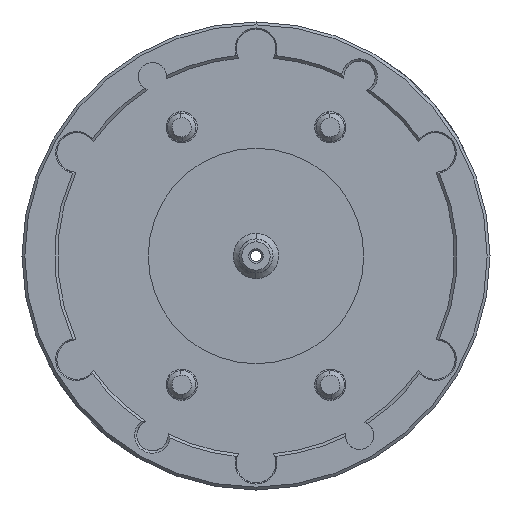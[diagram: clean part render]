
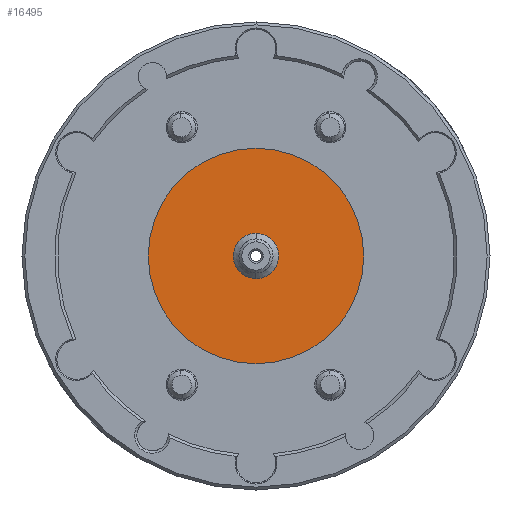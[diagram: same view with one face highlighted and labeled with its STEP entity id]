
A CAD part, left-side view. The second image highlights one B-rep face of the part: STEP entity #16495.
In plain terms, the highlighted planar face has unit normal (-1, 0, 0).
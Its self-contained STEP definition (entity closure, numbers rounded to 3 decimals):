
#727 = CIRCLE ( 'NONE', #31641, 38. ) ;
#1557 = AXIS2_PLACEMENT_3D ( 'NONE', #29763, #34988, #27364 ) ;
#1845 = CARTESIAN_POINT ( 'NONE',  ( -100., 0.021, -8. ) ) ;
#1862 = CARTESIAN_POINT ( 'NONE',  ( -100., 0., 0. ) ) ;
#2131 = ORIENTED_EDGE ( 'NONE', *, *, #16975, .F. ) ;
#2211 = EDGE_LOOP ( 'NONE', ( #14576, #25017 ) ) ;
#3532 = FACE_BOUND ( 'NONE', #2211, .T. ) ;
#3799 = FACE_OUTER_BOUND ( 'NONE', #29855, .T. ) ;
#3815 = EDGE_CURVE ( 'NONE', #28816, #37797, #34295, .T. ) ;
#5110 = CIRCLE ( 'NONE', #24553, 38. ) ;
#7235 = DIRECTION ( 'NONE',  ( 1., 0., 0. ) ) ;
#7802 = PLANE ( 'NONE',  #1557 ) ;
#12517 = AXIS2_PLACEMENT_3D ( 'NONE', #34813, #34100, #33868 ) ;
#14087 = DIRECTION ( 'NONE',  ( 0., 0., -1. ) ) ;
#14142 = DIRECTION ( 'NONE',  ( 1., 0., 0. ) ) ;
#14209 = CARTESIAN_POINT ( 'NONE',  ( -100., 0., 0. ) ) ;
#14576 = ORIENTED_EDGE ( 'NONE', *, *, #3815, .T. ) ;
#16060 = DIRECTION ( 'NONE',  ( 0., 0., -1. ) ) ;
#16495 = ADVANCED_FACE ( 'NONE', ( #3532, #3799 ), #7802, .F. ) ;
#16556 = AXIS2_PLACEMENT_3D ( 'NONE', #1862, #7235, #16060 ) ;
#16975 = EDGE_CURVE ( 'NONE', #29133, #36455, #727, .T. ) ;
#18780 = CARTESIAN_POINT ( 'NONE',  ( -100., 0., -38. ) ) ;
#21340 = DIRECTION ( 'NONE',  ( 1., 0., 0. ) ) ;
#23670 = EDGE_CURVE ( 'NONE', #37797, #28816, #39706, .T. ) ;
#24553 = AXIS2_PLACEMENT_3D ( 'NONE', #14209, #14142, #14087 ) ;
#25017 = ORIENTED_EDGE ( 'NONE', *, *, #23670, .T. ) ;
#27236 = CARTESIAN_POINT ( 'NONE',  ( -100., 0., 38. ) ) ;
#27364 = DIRECTION ( 'NONE',  ( 0., 0., -1. ) ) ;
#27536 = CARTESIAN_POINT ( 'NONE',  ( -100., -0.021, 8. ) ) ;
#28816 = VERTEX_POINT ( 'NONE', #1845 ) ;
#29059 = DIRECTION ( 'NONE',  ( 0., 0., -1. ) ) ;
#29133 = VERTEX_POINT ( 'NONE', #18780 ) ;
#29763 = CARTESIAN_POINT ( 'NONE',  ( -100., -38., 0. ) ) ;
#29855 = EDGE_LOOP ( 'NONE', ( #2131, #30263 ) ) ;
#30263 = ORIENTED_EDGE ( 'NONE', *, *, #36035, .F. ) ;
#31098 = CARTESIAN_POINT ( 'NONE',  ( -100., 0., 0. ) ) ;
#31641 = AXIS2_PLACEMENT_3D ( 'NONE', #31098, #21340, #29059 ) ;
#33868 = DIRECTION ( 'NONE',  ( 0., 0., -1. ) ) ;
#34100 = DIRECTION ( 'NONE',  ( 1., 0., 0. ) ) ;
#34295 = CIRCLE ( 'NONE', #16556, 8. ) ;
#34813 = CARTESIAN_POINT ( 'NONE',  ( -100., 0., 0. ) ) ;
#34988 = DIRECTION ( 'NONE',  ( 1., 0., 0. ) ) ;
#36035 = EDGE_CURVE ( 'NONE', #36455, #29133, #5110, .T. ) ;
#36455 = VERTEX_POINT ( 'NONE', #27236 ) ;
#37797 = VERTEX_POINT ( 'NONE', #27536 ) ;
#39706 = CIRCLE ( 'NONE', #12517, 8. ) ;
